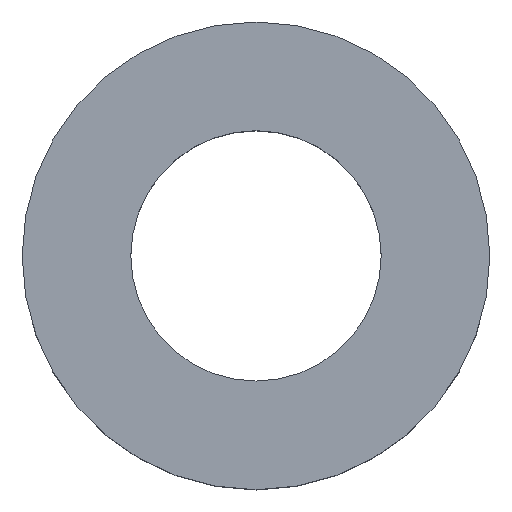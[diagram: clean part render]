
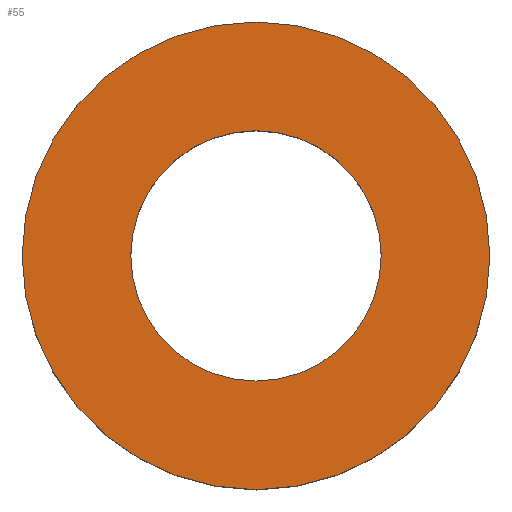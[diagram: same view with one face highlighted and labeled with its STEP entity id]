
A CAD part, top view. The second image highlights one B-rep face of the part: STEP entity #55.
In plain terms, the highlighted planar face has unit normal (0, 0, 1).
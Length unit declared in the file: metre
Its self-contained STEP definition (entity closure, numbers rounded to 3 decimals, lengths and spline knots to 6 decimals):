
#13=PLANE('',#76);
#20=ORIENTED_EDGE('',*,*,#23,.T.);
#21=ORIENTED_EDGE('',*,*,#25,.F.);
#23=EDGE_CURVE('',#27,#27,#31,.T.);
#25=EDGE_CURVE('',#29,#29,#33,.T.);
#27=VERTEX_POINT('',#100);
#29=VERTEX_POINT('',#105);
#31=CIRCLE('',#71,0.0017);
#33=CIRCLE('',#74,0.003175);
#40=EDGE_LOOP('',(#20));
#41=EDGE_LOOP('',(#21));
#48=FACE_BOUND('',#40,.T.);
#49=FACE_BOUND('',#41,.T.);
#55=ADVANCED_FACE('',(#48,#49),#13,.F.);
#71=AXIS2_PLACEMENT_3D('',#99,#83,#84);
#74=AXIS2_PLACEMENT_3D('',#104,#89,#90);
#76=AXIS2_PLACEMENT_3D('',#107,#93,#94);
#83=DIRECTION('',(0.,0.,-1.));
#84=DIRECTION('',(-1.,0.,0.));
#89=DIRECTION('',(0.,0.,-1.));
#90=DIRECTION('',(-1.,0.,0.));
#93=DIRECTION('',(0.,0.,-1.));
#94=DIRECTION('',(1.,0.,0.));
#99=CARTESIAN_POINT('',(-0.013,0.013,0.011113));
#100=CARTESIAN_POINT('',(-0.0147,0.013,0.011113));
#104=CARTESIAN_POINT('',(-0.013,0.013,0.011113));
#105=CARTESIAN_POINT('',(-0.016175,0.013,0.011113));
#107=CARTESIAN_POINT('',(0.,0.,0.011113));
